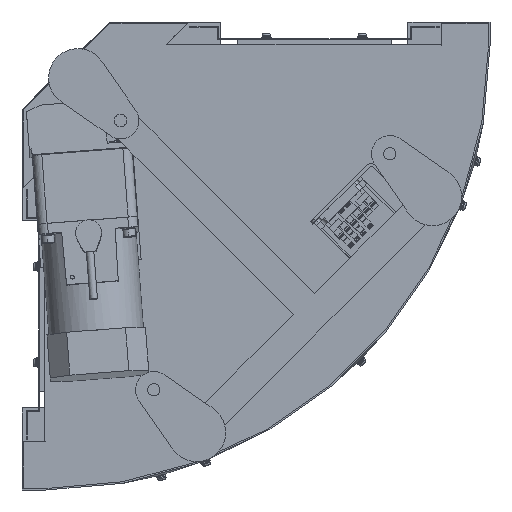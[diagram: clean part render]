
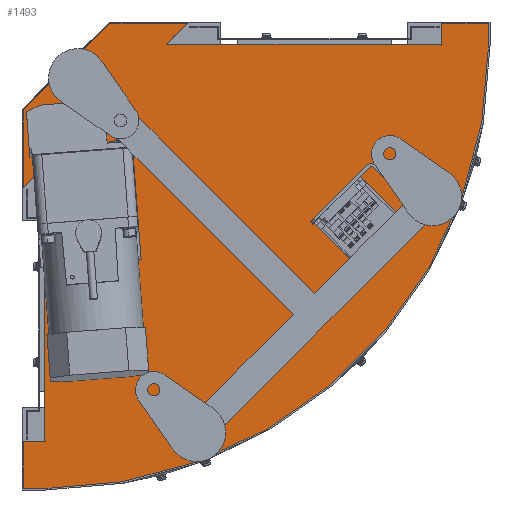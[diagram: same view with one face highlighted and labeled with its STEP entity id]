
A CAD part, front view. The second image highlights one B-rep face of the part: STEP entity #1493.
In plain terms, the highlighted planar face has unit normal (0, -1, 0).
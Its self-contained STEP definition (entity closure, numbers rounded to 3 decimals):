
#1493=ADVANCED_FACE('',(#3679),#3678,.F.);
#3678=PLANE('',#18867);
#3679=FACE_OUTER_BOUND('',#18868,.T.);
#18864=CARTESIAN_POINT('',(-33.4,-143.5,-191.5));
#18865=DIRECTION('',(0.,1.,0.));
#18866=DIRECTION('',(0.,0.,1.));
#18867=AXIS2_PLACEMENT_3D('',#18864,#18865,#18866);
#18868=EDGE_LOOP('',(#28890,#28891,#28892,#28893,#28894,#28895,#28896,#28897,#28898,#28899,#28900,#28901,#28902,#28903,#28904,#28905));
#28890=ORIENTED_EDGE('',*,*,#36489,.F.);
#28891=ORIENTED_EDGE('',*,*,#36592,.F.);
#28892=ORIENTED_EDGE('',*,*,#36579,.T.);
#28893=ORIENTED_EDGE('',*,*,#36594,.T.);
#28894=ORIENTED_EDGE('',*,*,#36595,.T.);
#28895=ORIENTED_EDGE('',*,*,#36596,.T.);
#28896=ORIENTED_EDGE('',*,*,#36583,.T.);
#28897=ORIENTED_EDGE('',*,*,#36590,.F.);
#28898=ORIENTED_EDGE('',*,*,#36588,.F.);
#28899=ORIENTED_EDGE('',*,*,#36597,.T.);
#28900=ORIENTED_EDGE('',*,*,#36598,.T.);
#28901=ORIENTED_EDGE('',*,*,#36599,.T.);
#28902=ORIENTED_EDGE('',*,*,#36600,.T.);
#28903=ORIENTED_EDGE('',*,*,#36601,.T.);
#28904=ORIENTED_EDGE('',*,*,#36602,.T.);
#28905=ORIENTED_EDGE('',*,*,#36603,.T.);
#36489=EDGE_CURVE('',#41092,#41077,#41099,.T.);
#36579=EDGE_CURVE('',#41703,#41696,#41704,.T.);
#36583=EDGE_CURVE('',#41683,#41724,#41731,.T.);
#36588=EDGE_CURVE('',#41758,#41765,#41766,.T.);
#36590=EDGE_CURVE('',#41765,#41724,#41778,.T.);
#36592=EDGE_CURVE('',#41703,#41092,#41790,.T.);
#36594=EDGE_CURVE('',#41696,#41802,#41803,.T.);
#36595=EDGE_CURVE('',#41802,#41809,#41810,.T.);
#36596=EDGE_CURVE('',#41809,#41683,#41816,.T.);
#36597=EDGE_CURVE('',#41758,#41822,#41823,.T.);
#36598=EDGE_CURVE('',#41822,#41829,#41830,.T.);
#36599=EDGE_CURVE('',#41829,#41836,#41837,.T.);
#36600=EDGE_CURVE('',#41836,#41843,#41844,.T.);
#36601=EDGE_CURVE('',#41843,#41850,#41851,.T.);
#36602=EDGE_CURVE('',#41850,#41857,#41858,.T.);
#36603=EDGE_CURVE('',#41857,#41077,#41864,.T.);
#41077=VERTEX_POINT('',#67417);
#41092=VERTEX_POINT('',#67427);
#41099=CIRCLE('',#67434,412.5);
#41683=VERTEX_POINT('',#67792);
#41696=VERTEX_POINT('',#67799);
#41703=VERTEX_POINT('',#67803);
#41704=LINE('',#67804,#67805);
#41724=VERTEX_POINT('',#67815);
#41731=LINE('',#67819,#67820);
#41758=VERTEX_POINT('',#67835);
#41765=VERTEX_POINT('',#67839);
#41766=CIRCLE('',#67843,412.5);
#41778=LINE('',#67847,#67848);
#41790=LINE('',#67853,#67854);
#41802=VERTEX_POINT('',#67859);
#41803=LINE('',#67860,#67861);
#41809=VERTEX_POINT('',#67863);
#41810=LINE('',#67864,#67865);
#41816=LINE('',#67867,#67868);
#41822=VERTEX_POINT('',#67870);
#41823=LINE('',#67871,#67872);
#41829=VERTEX_POINT('',#67874);
#41830=LINE('',#67875,#67876);
#41836=VERTEX_POINT('',#67878);
#41837=LINE('',#67879,#67880);
#41843=VERTEX_POINT('',#67882);
#41844=CIRCLE('',#67886,461.5);
#41850=VERTEX_POINT('',#67887);
#41851=LINE('',#67888,#67889);
#41857=VERTEX_POINT('',#67891);
#41858=LINE('',#67892,#67893);
#41864=LINE('',#67895,#67896);
#67417=CARTESIAN_POINT('',(412.5,-143.5,280.));
#67427=CARTESIAN_POINT('',(412.496,-143.5,281.846));
#67431=CARTESIAN_POINT('',(0.,-143.5,280.));
#67432=DIRECTION('',(0.,1.,0.));
#67433=DIRECTION('',(0.,0.,-1.));
#67434=AXIS2_PLACEMENT_3D('',#67431,#67432,#67433);
#67792=CARTESIAN_POINT('',(-23.4,-143.5,132.5));
#67799=CARTESIAN_POINT('',(147.5,-143.5,303.4));
#67803=CARTESIAN_POINT('',(125.898,-143.5,281.798));
#67804=CARTESIAN_POINT('',(125.898,-143.5,281.798));
#67805=VECTOR('',#67806,30.55);
#67806=DIRECTION('',(0.707,0.,0.707));
#67815=CARTESIAN_POINT('',(-1.798,-143.5,154.102));
#67819=CARTESIAN_POINT('',(-23.4,-143.5,132.5));
#67820=VECTOR('',#67821,30.55);
#67821=DIRECTION('',(0.707,0.,0.707));
#67835=CARTESIAN_POINT('',(0.,-143.5,-132.5));
#67839=CARTESIAN_POINT('',(-1.846,-143.5,-132.496));
#67840=CARTESIAN_POINT('',(0.,-143.5,280.));
#67841=DIRECTION('',(0.,1.,0.));
#67842=DIRECTION('',(0.,0.,-1.));
#67843=AXIS2_PLACEMENT_3D('',#67840,#67841,#67842);
#67847=CARTESIAN_POINT('',(-1.846,-143.5,-132.496));
#67848=VECTOR('',#67849,286.598);
#67849=DIRECTION('',(0.,0.,1.));
#67853=CARTESIAN_POINT('',(125.898,-143.5,281.798));
#67854=VECTOR('',#67855,286.598);
#67855=DIRECTION('',(1.,0.,0.));
#67859=CARTESIAN_POINT('',(66.663,-143.5,303.4));
#67860=CARTESIAN_POINT('',(147.5,-143.5,303.4));
#67861=VECTOR('',#67862,80.837);
#67862=DIRECTION('',(-1.,0.,0.));
#67863=CARTESIAN_POINT('',(-23.4,-143.5,213.337));
#67864=CARTESIAN_POINT('',(66.663,-143.5,303.4));
#67865=VECTOR('',#67866,127.368);
#67866=DIRECTION('',(-0.707,0.,-0.707));
#67867=CARTESIAN_POINT('',(-23.4,-143.5,213.337));
#67868=VECTOR('',#67869,80.837);
#67869=DIRECTION('',(0.,0.,-1.));
#67870=CARTESIAN_POINT('',(-23.4,-143.5,-132.5));
#67871=CARTESIAN_POINT('',(0.,-143.5,-132.5));
#67872=VECTOR('',#67873,23.4);
#67873=DIRECTION('',(-1.,0.,0.));
#67874=CARTESIAN_POINT('',(-23.4,-143.5,-181.5));
#67875=CARTESIAN_POINT('',(-23.4,-143.5,-132.5));
#67876=VECTOR('',#67877,49.);
#67877=DIRECTION('',(0.,0.,-1.));
#67878=CARTESIAN_POINT('',(0.,-143.5,-181.5));
#67879=CARTESIAN_POINT('',(-23.4,-143.5,-181.5));
#67880=VECTOR('',#67881,23.4);
#67881=DIRECTION('',(1.,0.,0.));
#67882=CARTESIAN_POINT('',(461.5,-143.5,280.));
#67883=CARTESIAN_POINT('',(0.,-143.5,280.));
#67884=DIRECTION('',(0.,-1.,0.));
#67885=DIRECTION('',(0.,0.,-1.));
#67886=AXIS2_PLACEMENT_3D('',#67883,#67884,#67885);
#67887=CARTESIAN_POINT('',(461.5,-143.5,303.4));
#67888=CARTESIAN_POINT('',(461.5,-143.5,280.));
#67889=VECTOR('',#67890,23.4);
#67890=DIRECTION('',(0.,0.,1.));
#67891=CARTESIAN_POINT('',(412.5,-143.5,303.4));
#67892=CARTESIAN_POINT('',(461.5,-143.5,303.4));
#67893=VECTOR('',#67894,49.);
#67894=DIRECTION('',(-1.,0.,0.));
#67895=CARTESIAN_POINT('',(412.5,-143.5,303.4));
#67896=VECTOR('',#67897,23.4);
#67897=DIRECTION('',(0.,0.,-1.));
